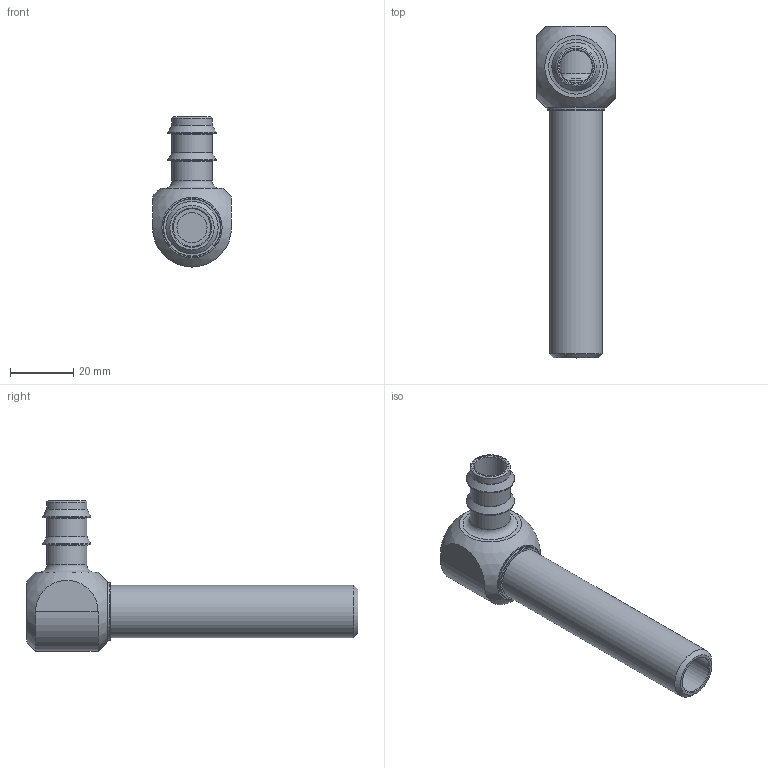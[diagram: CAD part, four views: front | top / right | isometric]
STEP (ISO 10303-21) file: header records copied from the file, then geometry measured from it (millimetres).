
FILE_DESCRIPTION(/* description */ (''),/* implementation_level */ '2;1');
FILE_NAME(/* name */ 'C:/Users/drich/Desktop/WJ38-L v1.step',/* time_stamp */ '2019-11-18T20:08:51-06:00',/* author */ (''),/* organization */ (''),/* preprocessor_version */ 'ST-DEVELOPER v18',/* originating_system */ 'Autodesk Translation Framework v8.12.0.6',/* authorisation */ '');
FILE_SCHEMA (('AUTOMOTIVE_DESIGN { 1 0 10303 214 3 1 1 }'));
Length unit declared in the file: inch
Products named in the file (4): WJ38-L; WJ38 BODY; WJ38-L SHAFT; WJ38-S SHAFT
Assembly tree (3 placements, depth 3):
  WJ38-L
    WJ38 BODY
    WJ38-L SHAFT
      WJ38-S SHAFT
Bounding box: 24.89 x 104.78 x 47.37 mm (x, y, z)
Volume: 16810.7 mm3; surface area: 15678.6 mm2
Topology: 2 solids, 2 shells, 91 faces, 258 edges, 186 vertices
Faces by surface type: torus 30, plane 27, cylinder 22, cone 11, sphere 1
Full cylindrical faces by diameter (mm): 9.5 x1, 10.312 x1, 11.887 x1, 12.7 x3, 13.97 x1, 15.24 x2, 16.537 x1, 16.891 x1, 17.018 x2, 17.12 x3, 17.424 x1, 18.237 x1, 19.685 x1, 19.812 x1, 22.352 x1
Entity records: 3287 total; most frequent: DIRECTION 643, CARTESIAN_POINT 590, ORIENTED_EDGE 514, AXIS2_PLACEMENT_3D 298, EDGE_CURVE 257, CIRCLE 200, VERTEX_POINT 186, EDGE_LOOP 111
